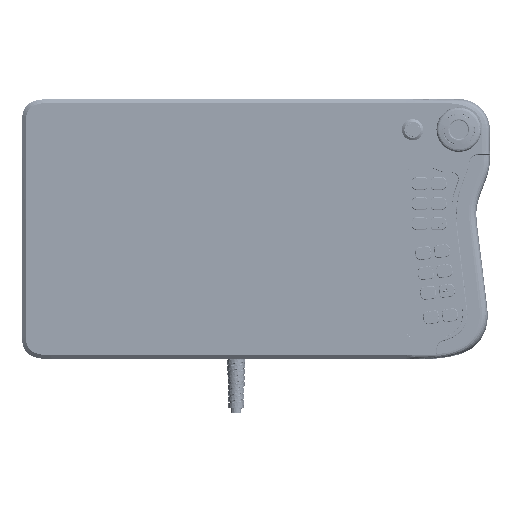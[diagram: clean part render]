
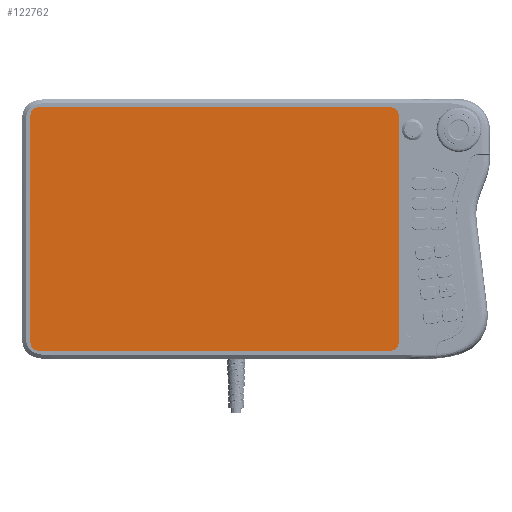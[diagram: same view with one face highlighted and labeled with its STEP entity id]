
A CAD part, top view. The second image highlights one B-rep face of the part: STEP entity #122762.
In plain terms, the highlighted planar face has unit normal (0, 0, 1).
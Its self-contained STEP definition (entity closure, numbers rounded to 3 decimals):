
#3080 = CARTESIAN_POINT ( 'NONE',  ( 114.5, 79., 1.1 ) ) ;
#12844 = AXIS2_PLACEMENT_3D ( 'NONE', #330331, #535551, #150489 ) ;
#20131 = CIRCLE ( 'NONE', #179596, 5. ) ;
#32452 = ORIENTED_EDGE ( 'NONE', *, *, #324116, .T. ) ;
#47917 = EDGE_CURVE ( 'NONE', #441354, #252807, #251768, .T. ) ;
#61644 = CARTESIAN_POINT ( 'NONE',  ( -114.5, 79., 1.1 ) ) ;
#70143 = DIRECTION ( 'NONE',  ( 1., 0., 0. ) ) ;
#71647 = AXIS2_PLACEMENT_3D ( 'NONE', #493970, #405399, #70143 ) ;
#75151 = CARTESIAN_POINT ( 'NONE',  ( 0., 0., 1.1 ) ) ;
#83128 = CARTESIAN_POINT ( 'NONE',  ( 119.5, -79., 1.1 ) ) ;
#85236 = DIRECTION ( 'NONE',  ( 1., 0., 0. ) ) ;
#86073 = DIRECTION ( 'NONE',  ( 1., 0., 0. ) ) ;
#93763 = EDGE_LOOP ( 'NONE', ( #128473, #376556, #323622, #123407, #115482, #32452, #308600, #177213 ) ) ;
#99806 = EDGE_CURVE ( 'NONE', #419619, #331653, #378699, .T. ) ;
#115482 = ORIENTED_EDGE ( 'NONE', *, *, #99806, .T. ) ;
#122762 = ADVANCED_FACE ( 'NONE', ( #285601 ), #161081, .T. ) ;
#123407 = ORIENTED_EDGE ( 'NONE', *, *, #274713, .T. ) ;
#124923 = VECTOR ( 'NONE', #194433, 1000. ) ;
#128473 = ORIENTED_EDGE ( 'NONE', *, *, #529072, .T. ) ;
#150123 = CARTESIAN_POINT ( 'NONE',  ( 119.5, 79., 1.1 ) ) ;
#150489 = DIRECTION ( 'NONE',  ( 1., 0., 0. ) ) ;
#161081 = PLANE ( 'NONE',  #485746 ) ;
#162545 = CARTESIAN_POINT ( 'NONE',  ( 114.5, 74., 1.1 ) ) ;
#169270 = DIRECTION ( 'NONE',  ( 0., 0., 1. ) ) ;
#177213 = ORIENTED_EDGE ( 'NONE', *, *, #47917, .T. ) ;
#179596 = AXIS2_PLACEMENT_3D ( 'NONE', #162545, #325944, #370248 ) ;
#194433 = DIRECTION ( 'NONE',  ( -1., 0., 0. ) ) ;
#217324 = EDGE_CURVE ( 'NONE', #352191, #229954, #230500, .T. ) ;
#221488 = VERTEX_POINT ( 'NONE', #338038 ) ;
#229954 = VERTEX_POINT ( 'NONE', #61644 ) ;
#230500 = LINE ( 'NONE', #150123, #124923 ) ;
#251521 = DIRECTION ( 'NONE',  ( 0., 0., 1. ) ) ;
#251768 = CIRCLE ( 'NONE', #12844, 5. ) ;
#252807 = VERTEX_POINT ( 'NONE', #322383 ) ;
#264488 = CARTESIAN_POINT ( 'NONE',  ( -114.5, -79., 1.1 ) ) ;
#274713 = EDGE_CURVE ( 'NONE', #229954, #419619, #531684, .T. ) ;
#283869 = AXIS2_PLACEMENT_3D ( 'NONE', #462101, #251521, #85236 ) ;
#285601 = FACE_OUTER_BOUND ( 'NONE', #93763, .T. ) ;
#299054 = CARTESIAN_POINT ( 'NONE',  ( 119.5, -79., 1.1 ) ) ;
#308600 = ORIENTED_EDGE ( 'NONE', *, *, #530083, .T. ) ;
#322383 = CARTESIAN_POINT ( 'NONE',  ( 119.5, -74., 1.1 ) ) ;
#323622 = ORIENTED_EDGE ( 'NONE', *, *, #217324, .T. ) ;
#324116 = EDGE_CURVE ( 'NONE', #331653, #425281, #452492, .T. ) ;
#325944 = DIRECTION ( 'NONE',  ( 0., 0., 1. ) ) ;
#330331 = CARTESIAN_POINT ( 'NONE',  ( 114.5, -74., 1.1 ) ) ;
#331653 = VERTEX_POINT ( 'NONE', #515554 ) ;
#335203 = LINE ( 'NONE', #83128, #534928 ) ;
#338038 = CARTESIAN_POINT ( 'NONE',  ( 119.5, 74., 1.1 ) ) ;
#339843 = VECTOR ( 'NONE', #426550, 1000. ) ;
#346123 = DIRECTION ( 'NONE',  ( 1., 0., 0. ) ) ;
#352191 = VERTEX_POINT ( 'NONE', #3080 ) ;
#354138 = CARTESIAN_POINT ( 'NONE',  ( 114.5, -79., 1.1 ) ) ;
#370248 = DIRECTION ( 'NONE',  ( 1., 0., 0. ) ) ;
#376556 = ORIENTED_EDGE ( 'NONE', *, *, #437769, .T. ) ;
#378699 = LINE ( 'NONE', #420333, #391452 ) ;
#382189 = LINE ( 'NONE', #299054, #339843 ) ;
#391452 = VECTOR ( 'NONE', #500658, 1000. ) ;
#405399 = DIRECTION ( 'NONE',  ( 0., 0., 1. ) ) ;
#419619 = VERTEX_POINT ( 'NONE', #542847 ) ;
#420333 = CARTESIAN_POINT ( 'NONE',  ( -119.5, -79., 1.1 ) ) ;
#425281 = VERTEX_POINT ( 'NONE', #264488 ) ;
#426550 = DIRECTION ( 'NONE',  ( 0., 1., 0. ) ) ;
#437769 = EDGE_CURVE ( 'NONE', #221488, #352191, #20131, .T. ) ;
#441354 = VERTEX_POINT ( 'NONE', #354138 ) ;
#452492 = CIRCLE ( 'NONE', #283869, 5. ) ;
#462101 = CARTESIAN_POINT ( 'NONE',  ( -114.5, -74., 1.1 ) ) ;
#485746 = AXIS2_PLACEMENT_3D ( 'NONE', #75151, #169270, #86073 ) ;
#493970 = CARTESIAN_POINT ( 'NONE',  ( -114.5, 74., 1.1 ) ) ;
#500658 = DIRECTION ( 'NONE',  ( 0., -1., 0. ) ) ;
#515554 = CARTESIAN_POINT ( 'NONE',  ( -119.5, -74., 1.1 ) ) ;
#529072 = EDGE_CURVE ( 'NONE', #252807, #221488, #382189, .T. ) ;
#530083 = EDGE_CURVE ( 'NONE', #425281, #441354, #335203, .T. ) ;
#531684 = CIRCLE ( 'NONE', #71647, 5. ) ;
#534928 = VECTOR ( 'NONE', #346123, 1000. ) ;
#535551 = DIRECTION ( 'NONE',  ( 0., 0., 1. ) ) ;
#542847 = CARTESIAN_POINT ( 'NONE',  ( -119.5, 74., 1.1 ) ) ;
